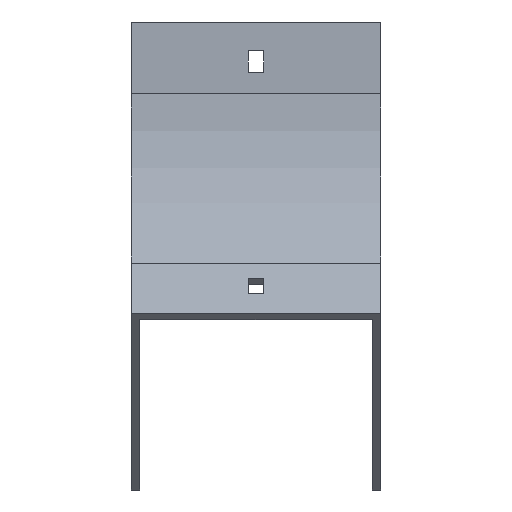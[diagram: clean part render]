
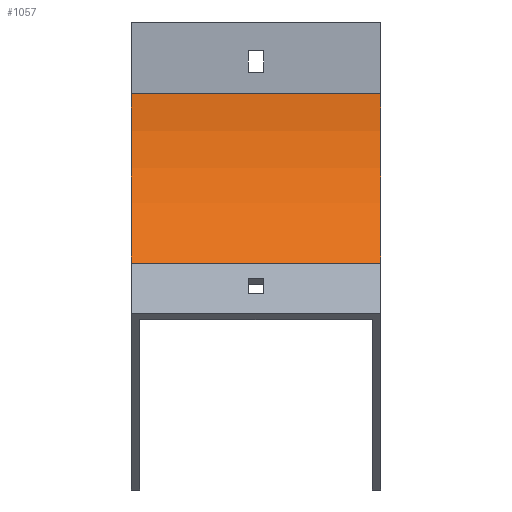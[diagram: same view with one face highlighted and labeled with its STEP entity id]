
A CAD part, front view. The second image highlights one B-rep face of the part: STEP entity #1057.
In plain terms, the highlighted cylindrical face has radius 100 mm (diameter 200 mm), a partial arc.
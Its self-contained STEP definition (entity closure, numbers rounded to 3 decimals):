
#3 = CIRCLE ( 'NONE', #1718, 100. ) ;
#84 = LINE ( 'NONE', #1090, #998 ) ;
#219 = DIRECTION ( 'NONE',  ( 0., 0., 1. ) ) ;
#255 = EDGE_CURVE ( 'NONE', #1112, #975, #1632, .T. ) ;
#264 = CARTESIAN_POINT ( 'NONE',  ( 52., -29.289, -100.711 ) ) ;
#266 = AXIS2_PLACEMENT_3D ( 'NONE', #729, #1327, #1605 ) ;
#306 = DIRECTION ( 'NONE',  ( -1., 0., 0. ) ) ;
#316 = DIRECTION ( 'NONE',  ( -1., 0., 0. ) ) ;
#464 = CARTESIAN_POINT ( 'NONE',  ( 52., 0., -30. ) ) ;
#608 = CIRCLE ( 'NONE', #692, 100. ) ;
#612 = VERTEX_POINT ( 'NONE', #264 ) ;
#617 = ORIENTED_EDGE ( 'NONE', *, *, #255, .T. ) ;
#638 = DIRECTION ( 'NONE',  ( -1., 0., 0. ) ) ;
#643 = EDGE_LOOP ( 'NONE', ( #1172, #741, #1385, #617 ) ) ;
#692 = AXIS2_PLACEMENT_3D ( 'NONE', #1641, #316, #219 ) ;
#729 = CARTESIAN_POINT ( 'NONE',  ( 52., -100., -30. ) ) ;
#741 = ORIENTED_EDGE ( 'NONE', *, *, #924, .F. ) ;
#742 = FACE_OUTER_BOUND ( 'NONE', #643, .T. ) ;
#773 = CARTESIAN_POINT ( 'NONE',  ( -52., -29.289, -100.711 ) ) ;
#909 = CARTESIAN_POINT ( 'NONE',  ( -52., 0., -30. ) ) ;
#915 = CARTESIAN_POINT ( 'NONE',  ( -52., -100., -30. ) ) ;
#924 = EDGE_CURVE ( 'NONE', #612, #1131, #84, .T. ) ;
#975 = VERTEX_POINT ( 'NONE', #909 ) ;
#998 = VECTOR ( 'NONE', #1253, 1000. ) ;
#1057 = ADVANCED_FACE ( 'NONE', ( #742 ), #1935, .F. ) ;
#1090 = CARTESIAN_POINT ( 'NONE',  ( 52., -29.289, -100.711 ) ) ;
#1112 = VERTEX_POINT ( 'NONE', #464 ) ;
#1131 = VERTEX_POINT ( 'NONE', #773 ) ;
#1172 = ORIENTED_EDGE ( 'NONE', *, *, #1456, .T. ) ;
#1230 = CARTESIAN_POINT ( 'NONE',  ( 52., 0., -30. ) ) ;
#1231 = EDGE_CURVE ( 'NONE', #1112, #612, #608, .T. ) ;
#1253 = DIRECTION ( 'NONE',  ( -1., 0., 0. ) ) ;
#1327 = DIRECTION ( 'NONE',  ( -1., 0., 0. ) ) ;
#1385 = ORIENTED_EDGE ( 'NONE', *, *, #1231, .F. ) ;
#1456 = EDGE_CURVE ( 'NONE', #975, #1131, #3, .T. ) ;
#1605 = DIRECTION ( 'NONE',  ( 0., 0., 1. ) ) ;
#1632 = LINE ( 'NONE', #1230, #1844 ) ;
#1641 = CARTESIAN_POINT ( 'NONE',  ( 52., -100., -30. ) ) ;
#1718 = AXIS2_PLACEMENT_3D ( 'NONE', #915, #638, #1719 ) ;
#1719 = DIRECTION ( 'NONE',  ( 0., 0., 1. ) ) ;
#1844 = VECTOR ( 'NONE', #306, 1000. ) ;
#1935 = CYLINDRICAL_SURFACE ( 'NONE', #266, 100. ) ;
